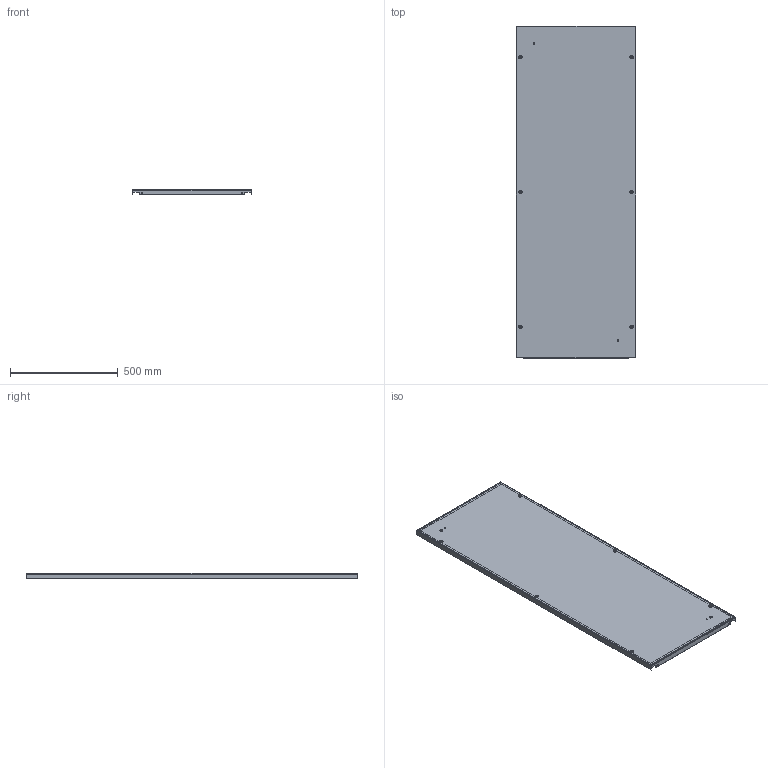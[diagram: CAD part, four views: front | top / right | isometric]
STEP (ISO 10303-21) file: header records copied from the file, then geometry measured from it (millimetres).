
FILE_DESCRIPTION (( 'STEP AP203' ), '1' );
FILE_NAME ('96170.step', '2013-03-08T09:38:17', ( '' ), ( '' ), 'SwSTEP 2.0', 'SolidWorks 2010', '' );
FILE_SCHEMA (( 'CONFIG_CONTROL_DESIGN' ));
Length unit declared in the file: inch
Products named in the file (7): 96170; 89048124_89048124; 89048103_89048103; 60100041_60100041; 87931527_87931527; 87931368_SLEEVE; 87953190_87953190
Assembly tree (7 placements, depth 4):
  96170
    89048124_89048124
      60100041_60100041  x2
        87931368_SLEEVE
        87931527_87931527
      87953190_87953190
      89048103_89048103
Bounding box: 553.39 x 1539.01 x 25.81 mm (x, y, z)
Volume: 1459200.3 mm3; surface area: 1997185.7 mm2
Topology: 6 solids, 6 shells, 287 faces, 652 edges, 400 vertices
Faces by surface type: plane 147, cylinder 72, torus 48, cone 12, bspline 8
Entity records: 7428 total; most frequent: CARTESIAN_POINT 1498, DIRECTION 1141, ORIENTED_EDGE 1010, EDGE_CURVE 505, AXIS2_PLACEMENT_3D 439, VERTEX_POINT 312, EDGE_LOOP 271, VECTOR 263
